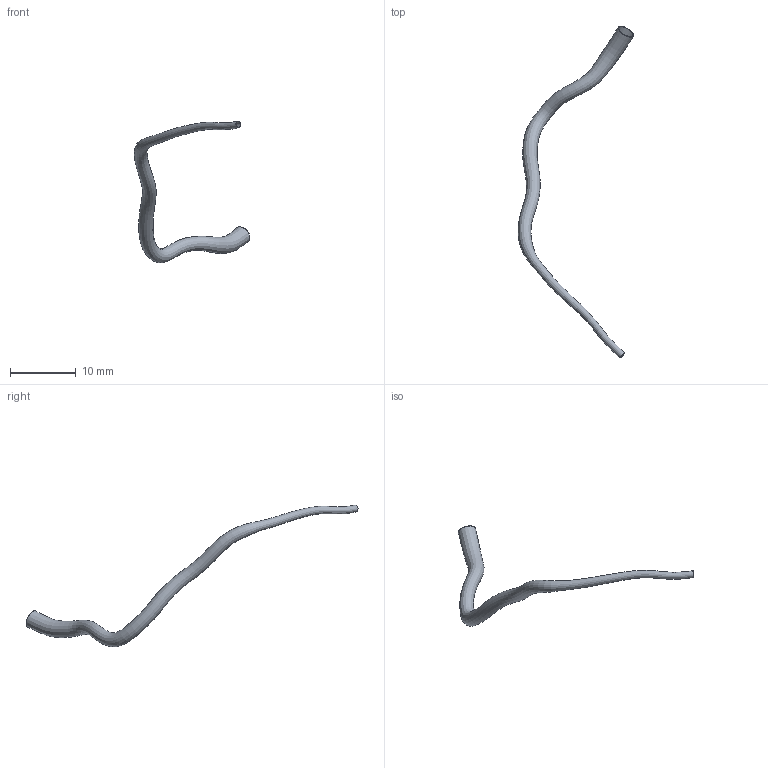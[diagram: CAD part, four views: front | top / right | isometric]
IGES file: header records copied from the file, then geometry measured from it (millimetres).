
Global section: file name: C:\Documents and Settings\Administrator\Desktop\FDA-Pig\Domestic LCA\Pig_000011\lcx.seg.ed.igs; native system: Rhinoceros ( May 19 2006 ); preprocessor: Trout Lake IGES 012 May 19 2006; date: 111205.184011; units: centimetre
Bounding box: 17.49 x 50.32 x 21.44 mm (x, y, z)
Surface area: 768.4 mm2 (no closed solid volume)
Topology: 0 solids, 0 shells, 4 faces, 14 edges, 10 vertices
Faces by surface type: bspline 4
